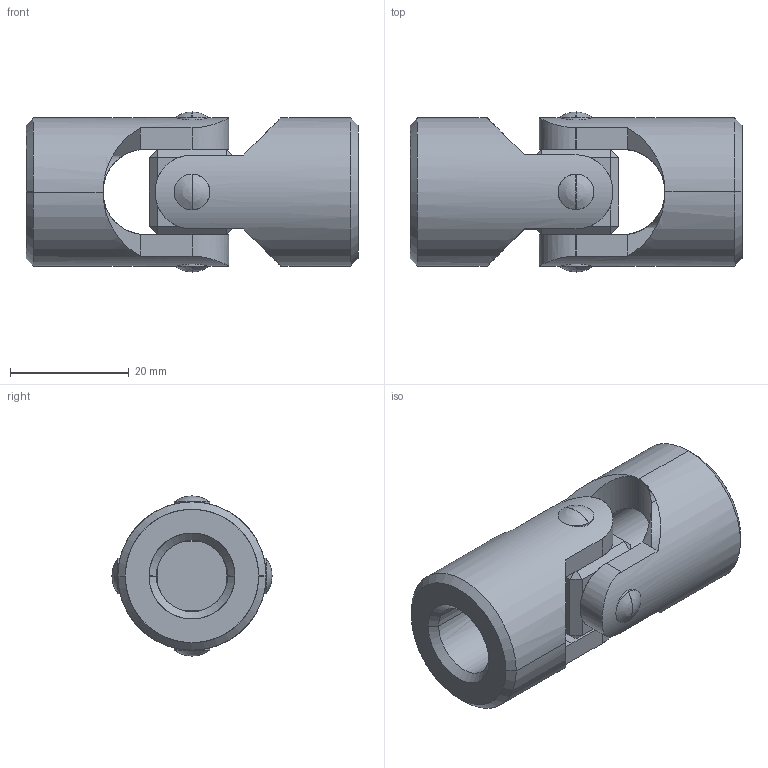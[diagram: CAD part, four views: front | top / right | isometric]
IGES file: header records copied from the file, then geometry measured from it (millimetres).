
Start section: SolidWorks IGES file using analytic representation for surfaces
Global section: file name: E:\WIXROYD\65186_v2\65186_v2_20180418_IGES\65186.W0012.igs; native system: SolidWorks 2017; preprocessor: SolidWorks 2017; author: liam_; date: 180618.201736; units: millimetre
Bounding box: 56 x 27 x 27 mm (x, y, z)
Surface area: 9631.7 mm2 (no closed solid volume)
Topology: 0 solids, 0 shells, 100 faces, 1776 edges, 1772 vertices
Faces by surface type: revolution 52, bspline 48
